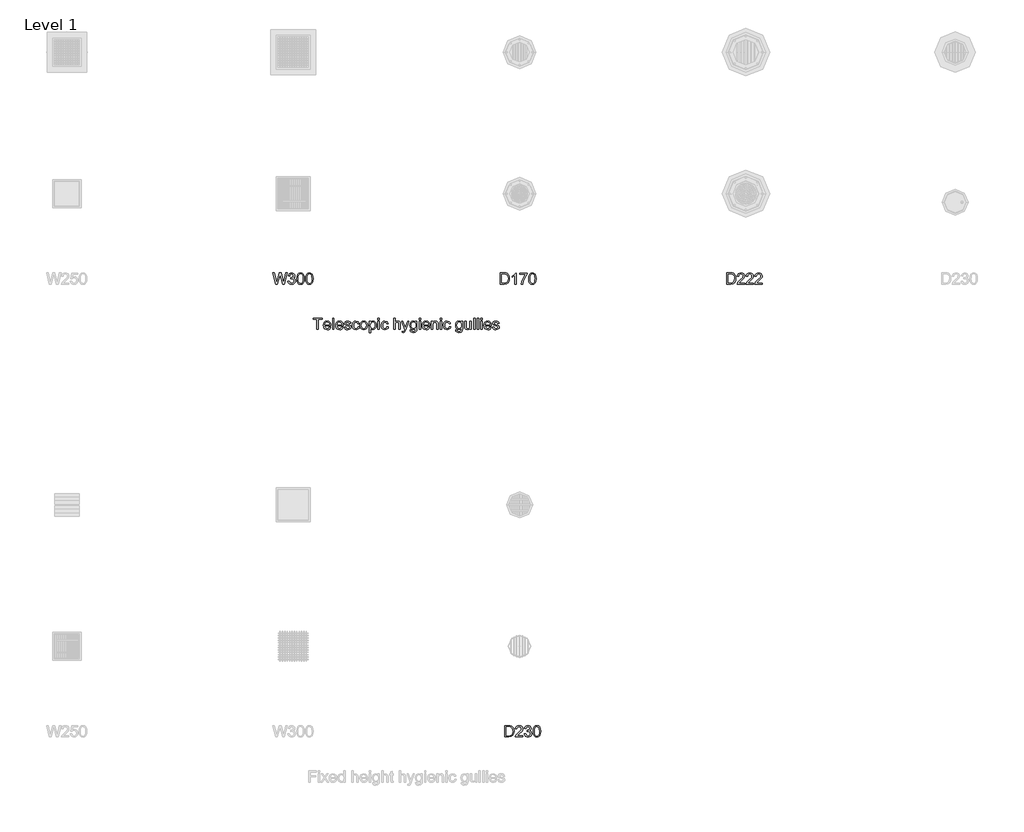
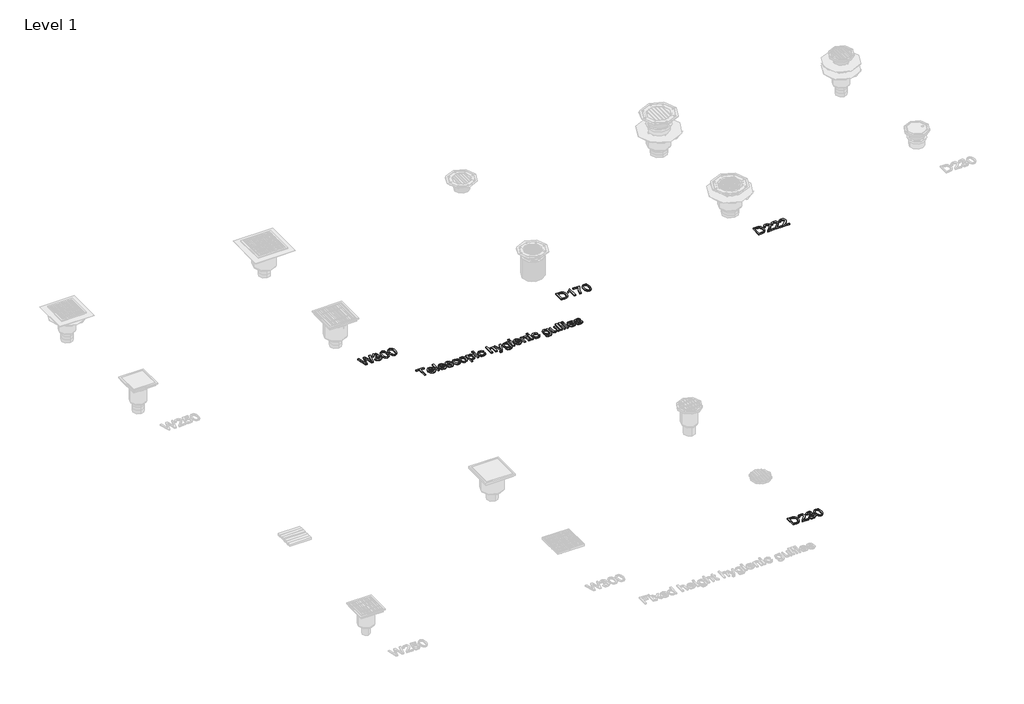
# One storey, part 3 of 4: 5 proxies.
"""IFC4 building model written with IfcOpenShell, lengths in millimetres."""

from ifc_helpers import new_model, si_unit, origin, origin_with_axes, place, context, project, spatial, polyline, outline, extrude, element, save

model = new_model("IFC4")

# Units and contexts
model_context = context("Model", 3, world=origin())
ifc_project = project(units=[si_unit("LENGTHUNIT", "METRE", prefix="MILLI")], contexts=[model_context])

# Site, building, storey
site = spatial("IfcSite", under=ifc_project)
building = spatial("IfcBuilding", under=site)
storey = spatial("IfcBuildingStorey", under=building, Name="Level 1", Elevation=0.0)

# Proxies
placement = place(None, origin())
element("IfcBuildingElementProxy", 1, Name="100mm ACO", ObjectType="100mm ACO", at=placement, inside=storey, context=model_context, shape_type="SweptSolid", body=[
    extrude(outline(polyline([(256.4814815, -2911.1111111), (223.1481481, -2911.1111111), (223.1481481, -3000.0), (210.1851852, -3000.0), (210.1851852, -2911.1111111), (176.8518519, -2911.1111111), (176.8518519, -2900.0), (256.4814815, -2900.0), (256.4814815, -2911.1111111)])), origin_with_axes(), (0.0, 0.0, 1.0), 10.0),
    extrude(outline(polyline([(332.4074074, -2966.6666667), (278.7037037, -2966.6666667), (280.7761863, -2977.7922454), (285.4890046, -2985.9375), (292.2706887, -2990.9288194), (300.5497685, -2992.5925926), (312.2251157, -2988.9033565), (319.4444444, -2977.7777778), (332.4074074, -2979.2824074), (328.0309606, -2988.9033565), (321.09375, -2996.0069444), (311.8489583, -3000.390625), (300.5497685, -3001.8518519), (285.9628183, -2999.3453414), (274.9565972, -2991.8258102), (268.0447049, -2979.9660012), (265.7407407, -2964.4386574), (267.9615162, -2948.900463), (274.6238426, -2936.6030093), (285.3226273, -2928.5951968), (299.6527778, -2925.9259259), (314.8726852, -2929.3836806), (327.3003472, -2941.1603009), (331.1306424, -2951.6963252), (332.4074074, -2966.6666667)]), holes=[polyline([(319.4444444, -2957.4074074), (317.3611111, -2947.2511574), (312.6157407, -2940.3935185), (299.3344907, -2935.1851852), (291.478588, -2936.7332176), (285.15625, -2941.3773148), (278.7037037, -2957.4074074), (319.4444444, -2957.4074074)])]), origin_with_axes(), (0.0, 0.0, 1.0), 10.0),
    extrude(outline(polyline([(360.1851852, -3000.0), (347.2222222, -3000.0), (347.2222222, -2900.0), (360.1851852, -2900.0), (360.1851852, -3000.0)])), origin_with_axes(), (0.0, 0.0, 1.0), 10.0),
    extrude(outline(polyline([(441.6666667, -2966.6666667), (387.962963, -2966.6666667), (390.0354456, -2977.7922454), (394.7482639, -2985.9375), (401.5299479, -2990.9288194), (409.8090278, -2992.5925926), (421.484375, -2988.9033565), (428.7037037, -2977.7777778), (441.6666667, -2979.2824074), (437.2902199, -2988.9033565), (430.3530093, -2996.0069444), (421.1082176, -3000.390625), (409.8090278, -3001.8518519), (395.2220775, -2999.3453414), (384.2158565, -2991.8258102), (377.3039641, -2979.9660012), (375.0, -2964.4386574), (377.2207755, -2948.900463), (383.8831019, -2936.6030093), (394.5818866, -2928.5951968), (408.912037, -2925.9259259), (424.1319444, -2929.3836806), (436.5596065, -2941.1603009), (440.3899016, -2951.6963252), (441.6666667, -2966.6666667)]), holes=[polyline([(428.7037037, -2957.4074074), (426.6203704, -2947.2511574), (421.875, -2940.3935185), (408.59375, -2935.1851852), (400.7378472, -2936.7332176), (394.4155093, -2941.3773148), (387.962963, -2957.4074074), (428.7037037, -2957.4074074)])]), origin_with_axes(), (0.0, 0.0, 1.0), 10.0),
    extrude(outline(polyline([(497.2222222, -2948.1481481), (492.4334491, -2938.4259259), (481.3657407, -2935.1851852), (470.0520833, -2937.962963), (465.7407407, -2946.0358796), (468.5908565, -2953.1828704), (482.03125, -2957.0601852), (499.7540509, -2961.2268519), (508.7962963, -2967.5491898), (512.037037, -2978.8773148), (510.0260417, -2987.8074363), (503.9930556, -2995.2112269), (494.5963542, -3000.1916956), (482.494213, -3001.8518519), (470.0195312, -3000.4557292), (460.6047454, -2996.2673611), (454.2426215, -2989.2939815), (450.9259259, -2979.5428241), (463.8888889, -2977.7777778), (469.4878472, -2988.9033565), (482.494213, -2992.5925926), (494.7916667, -2988.7586806), (499.0740741, -2979.4270833), (497.1498843, -2973.4519676), (492.3466435, -2970.0810185), (478.7615741, -2967.1875), (457.8269676, -2959.375), (452.7777778, -2946.7881944), (454.6477141, -2938.5018808), (460.2575231, -2931.8142361), (469.0285012, -2927.3980035), (480.3819444, -2925.9259259), (492.3140914, -2927.2135417), (501.2586806, -2931.0763889), (507.2157118, -2937.5072338), (510.1851852, -2946.4988426), (497.2222222, -2948.1481481)])), origin_with_axes(), (0.0, 0.0, 1.0), 10.0),
    extrude(outline(polyline([(586.1111111, -2975.5497685), (582.0818866, -2987.3553241), (574.9131944, -2995.5150463), (565.588831, -3000.2676505), (555.0925926, -3001.8518519), (540.7769097, -2999.2621528), (530.1215278, -2991.4930556), (523.5026042, -2979.4487847), (521.2962963, -2964.0335648), (526.3310185, -2941.3483796), (538.9322917, -2929.3836806), (554.8321759, -2925.9259259), (574.291088, -2931.5827546), (580.8268229, -2938.566985), (584.2592593, -2948.2060185), (571.2962963, -2950.0), (565.3935185, -2938.9033565), (554.9768519, -2935.1851852), (546.021412, -2937.0695891), (539.525463, -2942.7228009), (535.5758102, -2951.7541956), (534.2592593, -2963.7731481), (535.5794271, -2976.0018808), (539.5399306, -2985.083912), (545.98886, -2990.7154225), (554.7743056, -2992.5925926), (567.3755787, -2987.962963), (573.1481481, -2974.0740741), (586.1111111, -2975.5497685)])), origin_with_axes(), (0.0, 0.0, 1.0), 10.0),
    extrude(outline(polyline([(623.119213, -2925.9259259), (636.2955729, -2928.3203125), (647.0052083, -2935.5034722), (654.1124132, -2947.0992477), (656.4814815, -2962.7314815), (653.9171007, -2981.0040509), (646.2239583, -2992.9976852), (635.3190104, -2999.6383102), (623.119213, -3001.8518519), (610.5287905, -2999.5768229), (599.7251157, -2992.7517361), (592.29239, -2980.9859664), (589.8148148, -2963.8888889), (592.2092014, -2947.1715856), (599.3923611, -2935.3298611), (610.1128472, -2928.2769097), (623.119213, -2925.9259259)]), holes=[polyline([(623.119213, -2992.5925926), (631.92636, -2990.5852141), (638.3246528, -2984.5630787), (643.5185185, -2963.4259259), (642.0500579, -2951.1429398), (637.6446759, -2942.3032407), (631.0763889, -2936.9646991), (623.119213, -2935.1851852), (615.0065104, -2936.9900174), (608.4924769, -2942.4045139), (604.2064525, -2951.3925058), (602.7777778, -2963.9178241), (604.2317708, -2976.3997396), (608.59375, -2985.3732639), (615.1331019, -2990.7877604), (623.119213, -2992.5925926)])]), origin_with_axes(), (0.0, 0.0, 1.0), 10.0),
    extrude(outline(polyline([(684.3894676, -2936.4872685), (692.8457755, -2928.5662616), (704.5138889, -2925.9259259), (716.8402778, -2928.515625), (726.2731481, -2936.2847222), (732.2627315, -2948.2132523), (734.2592593, -2963.28125), (732.0023148, -2979.1702836), (725.2314815, -2991.4207176), (715.1765046, -2999.2440683), (703.0671296, -3001.8518519), (692.6938657, -2999.7251157), (684.6064815, -2993.3449074), (684.2592593, -3027.7777778), (671.2962963, -3027.7777778), (671.2962963, -2927.7777778), (684.2592593, -2927.7777778), (684.3894676, -2936.4872685)]), holes=[polyline([(701.6493056, -2992.5925926), (709.4220197, -2990.766059), (715.7262731, -2985.2864583), (719.9037905, -2976.1899595), (721.2962963, -2963.5127315), (719.9544271, -2951.4359086), (715.9288194, -2942.5202546), (709.8126447, -2937.0189525), (702.1990741, -2935.1851852), (694.317853, -2937.2287326), (687.9774306, -2943.359375), (683.7999132, -2952.7452257), (682.4074074, -2964.5543981), (683.7420428, -2976.66739), (687.7459491, -2985.4600694), (693.891059, -2990.8094618), (701.6493056, -2992.5925926)])]), origin_with_axes(), (0.0, 0.0, 1.0), 10.0),
    extrude(outline(polyline([(762.037037, -3000.0), (749.0740741, -3000.0), (749.0740741, -2927.7777778), (762.037037, -2927.7777778), (762.037037, -3000.0)])), origin_with_axes(), (0.0, 0.0, 1.0), 10.0),
    extrude(outline(polyline([(762.037037, -2912.962963), (749.0740741, -2912.962963), (749.0740741, -2900.0), (762.037037, -2900.0), (762.037037, -2912.962963)])), origin_with_axes(), (0.0, 0.0, 1.0), 10.0),
    extrude(outline(polyline([(841.6666667, -2975.5497685), (837.6374421, -2987.3553241), (830.46875, -2995.5150463), (821.1443866, -3000.2676505), (810.6481481, -3001.8518519), (796.3324653, -2999.2621528), (785.6770833, -2991.4930556), (779.0581597, -2979.4487847), (776.8518519, -2964.0335648), (781.8865741, -2941.3483796), (794.4878472, -2929.3836806), (810.3877315, -2925.9259259), (829.8466435, -2931.5827546), (836.3823785, -2938.566985), (839.8148148, -2948.2060185), (826.8518519, -2950.0), (820.9490741, -2938.9033565), (810.5324074, -2935.1851852), (801.5769676, -2937.0695891), (795.0810185, -2942.7228009), (791.1313657, -2951.7541956), (789.8148148, -2963.7731481), (791.1349826, -2976.0018808), (795.0954861, -2985.083912), (801.5444155, -2990.7154225), (810.3298611, -2992.5925926), (822.9311343, -2987.962963), (828.7037037, -2974.0740741), (841.6666667, -2975.5497685)])), origin_with_axes(), (0.0, 0.0, 1.0), 10.0),
    extrude(outline(polyline([(947.2222222, -3000.0), (934.2592593, -3000.0), (934.2592593, -2953.2986111), (930.5700231, -2939.7135417), (919.5601852, -2935.1851852), (906.6261574, -2940.5237269), (902.3509838, -2947.9564525), (900.9259259, -2959.5775463), (900.9259259, -3000.0), (887.962963, -3000.0), (887.962963, -2900.0), (900.9259259, -2900.0), (900.9259259, -2935.8217593), (910.6264468, -2928.3998843), (922.4826389, -2925.9259259), (935.7638889, -2928.7905093), (944.6614583, -2937.6012731), (947.2222222, -2954.1087963), (947.2222222, -3000.0)])), origin_with_axes(), (0.0, 0.0, 1.0), 10.0),
    extrude(outline(polyline([(1023.1481481, -2927.7777778), (995.9780093, -3001.9386574), (986.9357639, -3021.2818287), (980.8485243, -3026.1537905), (972.6273148, -3027.7777778), (965.0462963, -3026.6203704), (963.8888889, -3016.6666667), (970.4282407, -3018.5185185), (979.2824074, -3014.5543981), (985.15625, -3001.0706019), (958.3333333, -2927.7777778), (970.0520833, -2927.7777778), (987.6736111, -2973.8715278), (991.0011574, -2984.8090278), (995.9201389, -2971.1226852), (1011.4583333, -2927.7777778), (1023.1481481, -2927.7777778)])), origin_with_axes(), (0.0, 0.0, 1.0), 10.0),
    extrude(outline(polyline([(1093.5185185, -2989.3518519), (1090.4658565, -3011.9936343), (1079.6006944, -3023.6255787), (1060.9375, -3027.7777778), (1049.7214988, -3026.3708044), (1040.552662, -3022.1498843), (1034.4437211, -3014.7243924), (1032.4074074, -3003.7037037), (1045.3703704, -3005.7581019), (1049.9421296, -3015.3211806), (1061.1400463, -3018.5185185), (1074.4502315, -3014.8292824), (1079.615162, -3005.8449074), (1080.5555556, -2991.2326389), (1071.7809606, -2997.8081597), (1060.9664352, -3000.0), (1048.5749421, -2997.3885995), (1038.8888889, -2989.5543981), (1032.6388889, -2977.7416088), (1030.5555556, -2963.1944444), (1032.5376157, -2948.5532407), (1038.4837963, -2936.5740741), (1047.9311343, -2928.587963), (1060.4166667, -2925.9259259), (1071.4916088, -2928.3058449), (1080.2951389, -2935.4456019), (1080.5555556, -2927.7777778), (1093.5185185, -2927.7777778), (1093.5185185, -2989.3518519)]), holes=[polyline([(1062.9050926, -2990.7407407), (1070.1171875, -2989.134838), (1076.4756944, -2984.3171296), (1080.9244792, -2975.7233796), (1082.4074074, -2962.7893519), (1080.9932002, -2951.0018808), (1076.7505787, -2942.3177083), (1070.4246238, -2936.968316), (1062.7604167, -2935.1851852), (1055.0383391, -2937.0117187), (1048.8859954, -2942.4913194), (1044.8603877, -2951.1465567), (1043.5185185, -2962.5), (1044.9254919, -2975.2170139), (1049.146412, -2983.9699074), (1055.4000289, -2989.0480324), (1062.9050926, -2990.7407407)])]), origin_with_axes(), (0.0, 0.0, 1.0), 10.0),
    extrude(outline(polyline([(1125.0, -2912.962963), (1112.037037, -2912.962963), (1112.037037, -2900.0), (1125.0, -2900.0), (1125.0, -2912.962963)])), origin_with_axes(), (0.0, 0.0, 1.0), 10.0),
    extrude(outline(polyline([(1125.0, -3000.0), (1112.037037, -3000.0), (1112.037037, -2927.7777778), (1125.0, -2927.7777778), (1125.0, -3000.0)])), origin_with_axes(), (0.0, 0.0, 1.0), 10.0),
    extrude(outline(polyline([(1206.4814815, -2966.6666667), (1152.7777778, -2966.6666667), (1154.8502604, -2977.7922454), (1159.5630787, -2985.9375), (1166.3447627, -2990.9288194), (1174.6238426, -2992.5925926), (1186.2991898, -2988.9033565), (1193.5185185, -2977.7777778), (1206.4814815, -2979.2824074), (1202.1050347, -2988.9033565), (1195.1678241, -2996.0069444), (1185.9230324, -3000.390625), (1174.6238426, -3001.8518519), (1160.0368924, -2999.3453414), (1149.0306713, -2991.8258102), (1142.1187789, -2979.9660012), (1139.8148148, -2964.4386574), (1142.0355903, -2948.900463), (1148.6979167, -2936.6030093), (1159.3967014, -2928.5951968), (1173.7268519, -2925.9259259), (1188.9467593, -2929.3836806), (1201.3744213, -2941.1603009), (1205.2047164, -2951.6963252), (1206.4814815, -2966.6666667)]), holes=[polyline([(1193.5185185, -2957.4074074), (1191.4351852, -2947.2511574), (1186.6898148, -2940.3935185), (1173.4085648, -2935.1851852), (1165.552662, -2936.7332176), (1159.2303241, -2941.3773148), (1152.7777778, -2957.4074074), (1193.5185185, -2957.4074074)])]), origin_with_axes(), (0.0, 0.0, 1.0), 10.0),
    extrude(outline(polyline([(1280.5555556, -3000.0), (1267.5925926, -3000.0), (1267.5925926, -2955.0347222), (1263.7297454, -2939.4386574), (1252.9803241, -2935.1851852), (1242.9542824, -2937.9050926), (1236.2413194, -2945.5729167), (1234.2592593, -2959.5775463), (1234.2592593, -3000.0), (1221.2962963, -3000.0), (1221.2962963, -2927.7777778), (1232.4074074, -2927.7777778), (1232.4074074, -2937.818287), (1242.3032407, -2928.8917824), (1255.5555556, -2925.9259259), (1266.9270833, -2927.9803241), (1275.7233796, -2934.1290509), (1279.7309028, -2942.8674769), (1280.5555556, -2955.4108796), (1280.5555556, -3000.0)])), origin_with_axes(), (0.0, 0.0, 1.0), 10.0),
    extrude(outline(polyline([(1312.037037, -2912.962963), (1299.0740741, -2912.962963), (1299.0740741, -2900.0), (1312.037037, -2900.0), (1312.037037, -2912.962963)])), origin_with_axes(), (0.0, 0.0, 1.0), 10.0),
    extrude(outline(polyline([(1312.037037, -3000.0), (1299.0740741, -3000.0), (1299.0740741, -2927.7777778), (1312.037037, -2927.7777778), (1312.037037, -3000.0)])), origin_with_axes(), (0.0, 0.0, 1.0), 10.0),
    extrude(outline(polyline([(1391.6666667, -2975.5497685), (1387.6374421, -2987.3553241), (1380.46875, -2995.5150463), (1371.1443866, -3000.2676505), (1360.6481481, -3001.8518519), (1346.3324653, -2999.2621528), (1335.6770833, -2991.4930556), (1329.0581597, -2979.4487847), (1326.8518519, -2964.0335648), (1331.8865741, -2941.3483796), (1344.4878472, -2929.3836806), (1360.3877315, -2925.9259259), (1379.8466435, -2931.5827546), (1386.3823785, -2938.566985), (1389.8148148, -2948.2060185), (1376.8518519, -2950.0), (1370.9490741, -2938.9033565), (1360.5324074, -2935.1851852), (1351.5769676, -2937.0695891), (1345.0810185, -2942.7228009), (1341.1313657, -2951.7541956), (1339.8148148, -2963.7731481), (1341.1349826, -2976.0018808), (1345.0954861, -2985.083912), (1351.5444155, -2990.7154225), (1360.3298611, -2992.5925926), (1372.9311343, -2987.962963), (1378.7037037, -2974.0740741), (1391.6666667, -2975.5497685)])), origin_with_axes(), (0.0, 0.0, 1.0), 10.0),
    extrude(outline(polyline([(1497.2222222, -2989.3518519), (1494.1695602, -3011.9936343), (1483.3043981, -3023.6255787), (1464.6412037, -3027.7777778), (1453.4252025, -3026.3708044), (1444.2563657, -3022.1498843), (1438.1474248, -3014.7243924), (1436.1111111, -3003.7037037), (1449.0740741, -3005.7581019), (1453.6458333, -3015.3211806), (1464.84375, -3018.5185185), (1478.1539352, -3014.8292824), (1483.3188657, -3005.8449074), (1484.2592593, -2991.2326389), (1475.4846644, -2997.8081597), (1464.6701389, -3000.0), (1452.2786458, -2997.3885995), (1442.5925926, -2989.5543981), (1436.3425926, -2977.7416088), (1434.2592593, -2963.1944444), (1436.2413194, -2948.5532407), (1442.1875, -2936.5740741), (1451.634838, -2928.587963), (1464.1203704, -2925.9259259), (1475.1953125, -2928.3058449), (1483.9988426, -2935.4456019), (1484.2592593, -2927.7777778), (1497.2222222, -2927.7777778), (1497.2222222, -2989.3518519)]), holes=[polyline([(1466.6087963, -2990.7407407), (1473.8208912, -2989.134838), (1480.1793981, -2984.3171296), (1484.6281829, -2975.7233796), (1486.1111111, -2962.7893519), (1484.6969039, -2951.0018808), (1480.4542824, -2942.3177083), (1474.1283275, -2936.968316), (1466.4641204, -2935.1851852), (1458.7420428, -2937.0117187), (1452.5896991, -2942.4913194), (1448.5640914, -2951.1465567), (1447.2222222, -2962.5), (1448.6291956, -2975.2170139), (1452.8501157, -2983.9699074), (1459.1037326, -2989.0480324), (1466.6087963, -2990.7407407)])]), origin_with_axes(), (0.0, 0.0, 1.0), 10.0),
    extrude(outline(polyline([(1575.0, -3000.0), (1563.8888889, -3000.0), (1563.8888889, -2989.4965278), (1553.6458333, -2998.7630208), (1540.6828704, -3001.8518519), (1526.5625, -2998.3362269), (1517.9108796, -2988.6574074), (1515.7407407, -2972.65625), (1515.7407407, -2927.7777778), (1528.7037037, -2927.7777778), (1528.7037037, -2968.75), (1529.6006944, -2982.8414352), (1534.2881944, -2989.84375), (1543.3159722, -2992.5925926), (1556.0619213, -2987.6736111), (1560.5432581, -2980.1215278), (1562.037037, -2967.3032407), (1562.037037, -2927.7777778), (1575.0, -2927.7777778), (1575.0, -3000.0)])), origin_with_axes(), (0.0, 0.0, 1.0), 10.0),
    extrude(outline(polyline([(1606.4814815, -3000.0), (1593.5185185, -3000.0), (1593.5185185, -2900.0), (1606.4814815, -2900.0), (1606.4814815, -3000.0)])), origin_with_axes(), (0.0, 0.0, 1.0), 10.0),
    extrude(outline(polyline([(1637.962963, -3000.0), (1625.0, -3000.0), (1625.0, -2900.0), (1637.962963, -2900.0), (1637.962963, -3000.0)])), origin_with_axes(), (0.0, 0.0, 1.0), 10.0),
    extrude(outline(polyline([(1669.4444444, -2912.962963), (1656.4814815, -2912.962963), (1656.4814815, -2900.0), (1669.4444444, -2900.0), (1669.4444444, -2912.962963)])), origin_with_axes(), (0.0, 0.0, 1.0), 10.0),
    extrude(outline(polyline([(1669.4444444, -3000.0), (1656.4814815, -3000.0), (1656.4814815, -2927.7777778), (1669.4444444, -2927.7777778), (1669.4444444, -3000.0)])), origin_with_axes(), (0.0, 0.0, 1.0), 10.0),
    extrude(outline(polyline([(1750.9259259, -2966.6666667), (1697.2222222, -2966.6666667), (1699.2947049, -2977.7922454), (1704.0075231, -2985.9375), (1710.7892072, -2990.9288194), (1719.068287, -2992.5925926), (1730.7436343, -2988.9033565), (1737.962963, -2977.7777778), (1750.9259259, -2979.2824074), (1746.5494792, -2988.9033565), (1739.6122685, -2996.0069444), (1730.3674769, -3000.390625), (1719.068287, -3001.8518519), (1704.4813368, -2999.3453414), (1693.4751157, -2991.8258102), (1686.5632234, -2979.9660012), (1684.2592593, -2964.4386574), (1686.4800347, -2948.900463), (1693.1423611, -2936.6030093), (1703.8411458, -2928.5951968), (1718.1712963, -2925.9259259), (1733.3912037, -2929.3836806), (1745.8188657, -2941.1603009), (1749.6491609, -2951.6963252), (1750.9259259, -2966.6666667)]), holes=[polyline([(1737.962963, -2957.4074074), (1735.8796296, -2947.2511574), (1731.1342593, -2940.3935185), (1717.8530093, -2935.1851852), (1709.9971065, -2936.7332176), (1703.6747685, -2941.3773148), (1697.2222222, -2957.4074074), (1737.962963, -2957.4074074)])]), origin_with_axes(), (0.0, 0.0, 1.0), 10.0),
    extrude(outline(polyline([(1806.4814815, -2948.1481481), (1801.6927083, -2938.4259259), (1790.625, -2935.1851852), (1779.3113426, -2937.962963), (1775.0, -2946.0358796), (1777.8501157, -2953.1828704), (1791.2905093, -2957.0601852), (1809.0133102, -2961.2268519), (1818.0555556, -2967.5491898), (1821.2962963, -2978.8773148), (1819.2853009, -2987.8074363), (1813.2523148, -2995.2112269), (1803.8556134, -3000.1916956), (1791.7534722, -3001.8518519), (1779.2787905, -3000.4557292), (1769.8640046, -2996.2673611), (1763.5018808, -2989.2939815), (1760.1851852, -2979.5428241), (1773.1481481, -2977.7777778), (1778.7471065, -2988.9033565), (1791.7534722, -2992.5925926), (1804.0509259, -2988.7586806), (1808.3333333, -2979.4270833), (1806.4091435, -2973.4519676), (1801.6059028, -2970.0810185), (1788.0208333, -2967.1875), (1767.0862269, -2959.375), (1762.037037, -2946.7881944), (1763.9069734, -2938.5018808), (1769.5167824, -2931.8142361), (1778.2877604, -2927.3980035), (1789.6412037, -2925.9259259), (1801.5733507, -2927.2135417), (1810.5179398, -2931.0763889), (1816.4749711, -2937.5072338), (1819.4444444, -2946.4988426), (1806.4814815, -2948.1481481)])), origin_with_axes(), (0.0, 0.0, 1.0), 10.0),
])
element("IfcBuildingElementProxy", 2, Name="100mm ACO", ObjectType="100mm ACO", at=placement, inside=storey, context=model_context, shape_type="SweptSolid", body=[
    extrude(outline(polyline([(-51.8518519, -2500.0), (-78.0092593, -2600.0), (-93.8657407, -2600.0), (-113.744213, -2521.1516204), (-115.7407407, -2511.9502315), (-118.75, -2523.8136574), (-139.6990741, -2600.0), (-153.587963, -2600.0), (-179.6296296, -2500.0), (-166.3194444, -2500.0), (-151.1863426, -2565.6828704), (-147.3668981, -2584.6643519), (-142.7083333, -2567.505787), (-123.8425926, -2500.0), (-107.494213, -2500.0), (-93.8078704, -2550.6076389), (-86.3715278, -2586.1111111), (-81.25, -2564.3229167), (-65.2199074, -2500.0), (-51.8518519, -2500.0)])), origin_with_axes(), (0.0, 0.0, 1.0), 10.0),
    extrude(outline(polyline([(1.1863426, -2546.3975694), (9.516059, -2549.6346933), (15.5237269, -2555.4253472), (20.3703704, -2570.9490741), (17.8457755, -2583.2573785), (10.2719907, -2593.1568287), (-0.817419, -2599.6780961), (-13.8888889, -2601.8518519), (-26.1682581, -2599.9348958), (-36.0966435, -2594.1840278), (-43.0230035, -2585.2864583), (-46.2962963, -2573.9293981), (-33.3333333, -2572.2222222), (-26.5046296, -2587.5144676), (-13.4548611, -2592.5925926), (-5.3855613, -2591.0662616), (1.3454861, -2586.4872685), (5.8919271, -2579.6947338), (7.4074074, -2571.5277778), (5.9859664, -2563.7695312), (1.7216435, -2557.4508102), (-4.8357928, -2553.2515914), (-13.1365741, -2551.8518519), (-22.2222222, -2553.7037037), (-20.775463, -2542.5925926), (-12.9050926, -2542.1006944), (-6.4236111, -2539.6990741), (-0.4918981, -2534.2303241), (1.8518519, -2525.4050926), (-2.9369213, -2513.4837963), (-14.0335648, -2509.2592593), (-25.7667824, -2514.0625), (-31.4814815, -2527.7777778), (-44.4444444, -2525.5497685), (-40.6069155, -2514.3627025), (-33.8975694, -2506.3802083), (-24.9529803, -2501.5950521), (-14.4097222, -2500.0), (-2.9441551, -2501.8916377), (6.4525463, -2507.5665509), (12.7242477, -2515.9758391), (14.8148148, -2526.0706019), (11.4076968, -2538.1365741), (1.1863426, -2546.3975694)])), origin_with_axes(), (0.0, 0.0, 1.0), 10.0),
    extrude(outline(polyline([(64.7858796, -2500.0), (79.3818721, -2503.1864873), (89.807581, -2512.7459491), (96.0630064, -2528.6783854), (98.1481481, -2550.9837963), (95.9924769, -2573.4555845), (89.525463, -2589.3084491), (79.0292245, -2598.7160012), (64.7858796, -2601.8518519), (50.2152054, -2598.6725984), (39.807581, -2589.134838), (33.5630064, -2573.2385706), (31.4814815, -2550.9837963), (33.6371528, -2528.515625), (40.1041667, -2512.6157407), (50.5859375, -2503.1539352), (64.7858796, -2500.0)]), holes=[polyline([(64.8148148, -2592.5925926), (73.6545139, -2590.1584201), (80.0347222, -2582.8559028), (83.8975694, -2570.0195312), (85.1851852, -2550.9837963), (82.9282407, -2526.7650463), (76.1140046, -2513.599537), (64.6701389, -2509.2592593), (55.8485243, -2511.7368345), (49.5225694, -2519.1695602), (45.7139757, -2532.0782697), (44.4444444, -2550.9837963), (46.7447917, -2575.0434028), (53.5590278, -2588.2523148), (64.8148148, -2592.5925926)])]), origin_with_axes(), (0.0, 0.0, 1.0), 10.0),
    extrude(outline(polyline([(142.5636574, -2500.0), (157.1596499, -2503.1864873), (167.5853588, -2512.7459491), (173.8407841, -2528.6783854), (175.9259259, -2550.9837963), (173.7702546, -2573.4555845), (167.3032407, -2589.3084491), (156.8070023, -2598.7160012), (142.5636574, -2601.8518519), (127.9929832, -2598.6725984), (117.5853588, -2589.134838), (111.3407841, -2573.2385706), (109.2592593, -2550.9837963), (111.4149306, -2528.515625), (117.8819444, -2512.6157407), (128.3637153, -2503.1539352), (142.5636574, -2500.0)]), holes=[polyline([(142.5925926, -2592.5925926), (151.4322917, -2590.1584201), (157.8125, -2582.8559028), (161.6753472, -2570.0195312), (162.962963, -2550.9837963), (160.7060185, -2526.7650463), (153.8917824, -2513.599537), (142.4479167, -2509.2592593), (133.6263021, -2511.7368345), (127.3003472, -2519.1695602), (123.4917535, -2532.0782697), (122.2222222, -2550.9837963), (124.5225694, -2575.0434028), (131.3368056, -2588.2523148), (142.5925926, -2592.5925926)])]), origin_with_axes(), (0.0, 0.0, 1.0), 10.0),
])
element("IfcBuildingElementProxy", 3, Name="100mm ACO", ObjectType="100mm ACO", at=placement, inside=storey, context=model_context, shape_type="SweptSolid", body=[
    extrude(outline(polyline([(1829.6296296, -2500.0), (1863.6574074, -2500.0), (1879.0509259, -2500.9259259), (1891.3773148, -2505.4253472), (1901.6637731, -2515.2777778), (1908.59375, -2529.7019676), (1911.1111111, -2549.4502315), (1908.521412, -2569.5855035), (1900.7523148, -2585.7783565), (1886.6681134, -2596.4445891), (1865.1331019, -2600.0), (1829.6296296, -2600.0), (1829.6296296, -2500.0)]), holes=[polyline([(1842.5925926, -2588.8888889), (1863.9178241, -2588.8888889), (1875.5642361, -2588.0497685), (1885.9664352, -2583.521412), (1894.6903935, -2571.4265046), (1898.1481481, -2549.1608796), (1896.8171296, -2534.8668981), (1891.9270833, -2522.7575231), (1883.7528935, -2514.7569444), (1874.7540509, -2511.6608796), (1863.5127315, -2511.1111111), (1842.5925926, -2511.1111111), (1842.5925926, -2588.8888889)])]), origin_with_axes(), (0.0, 0.0, 1.0), 10.0),
    extrude(outline(polyline([(1972.2222222, -2600.0), (1959.2592593, -2600.0), (1959.2592593, -2522.2222222), (1935.1851852, -2537.037037), (1935.1851852, -2527.7777778), (1953.4577546, -2516.0590278), (1964.8148148, -2501.8518519), (1972.2222222, -2501.8518519), (1972.2222222, -2600.0)])), origin_with_axes(), (0.0, 0.0, 1.0), 10.0),
    extrude(outline(polyline([(2068.5185185, -2509.2592593), (2054.4885706, -2528.8085937), (2042.4913194, -2551.1140046), (2033.7854456, -2575.177228), (2029.6296296, -2600.0), (2016.6666667, -2600.0), (2019.5710359, -2578.7688079), (2027.3003472, -2555.6423611), (2052.34375, -2511.1111111), (2001.8518519, -2511.1111111), (2001.8518519, -2501.8518519), (2068.5185185, -2501.8518519), (2068.5185185, -2509.2592593)])), origin_with_axes(), (0.0, 0.0, 1.0), 10.0),
    extrude(outline(polyline([(2112.9340278, -2500.0), (2127.5300203, -2503.1864873), (2137.9557292, -2512.7459491), (2144.2111545, -2528.6783854), (2146.2962963, -2550.9837963), (2144.140625, -2573.4555845), (2137.6736111, -2589.3084491), (2127.1773727, -2598.7160012), (2112.9340278, -2601.8518519), (2098.3633536, -2598.6725984), (2087.9557292, -2589.134838), (2081.7111545, -2573.2385706), (2079.6296296, -2550.9837963), (2081.7853009, -2528.515625), (2088.2523148, -2512.6157407), (2098.7340856, -2503.1539352), (2112.9340278, -2500.0)]), holes=[polyline([(2112.962963, -2592.5925926), (2121.802662, -2590.1584201), (2128.1828704, -2582.8559028), (2132.0457176, -2570.0195312), (2133.3333333, -2550.9837963), (2131.0763889, -2526.7650463), (2124.2621528, -2513.599537), (2112.818287, -2509.2592593), (2103.9966725, -2511.7368345), (2097.6707176, -2519.1695602), (2093.8621238, -2532.0782697), (2092.5925926, -2550.9837963), (2094.8929398, -2575.0434028), (2101.7071759, -2588.2523148), (2112.962963, -2592.5925926)])]), origin_with_axes(), (0.0, 0.0, 1.0), 10.0),
])
element("IfcBuildingElementProxy", 4, Name="100mm ACO", ObjectType="100mm ACO", at=placement, inside=storey, context=model_context, shape_type="SweptSolid", body=[
    extrude(outline(polyline([(3829.6296296, -2500.0), (3863.6574074, -2500.0), (3879.0509259, -2500.9259259), (3891.3773148, -2505.4253472), (3901.6637731, -2515.2777778), (3908.59375, -2529.7019676), (3911.1111111, -2549.4502315), (3908.521412, -2569.5855035), (3900.7523148, -2585.7783565), (3886.6681134, -2596.4445891), (3865.1331019, -2600.0), (3829.6296296, -2600.0), (3829.6296296, -2500.0)]), holes=[polyline([(3842.5925926, -2588.8888889), (3863.9178241, -2588.8888889), (3875.5642361, -2588.0497685), (3885.9664352, -2583.521412), (3894.6903935, -2571.4265046), (3898.1481481, -2549.1608796), (3896.8171296, -2534.8668981), (3891.9270833, -2522.7575231), (3883.7528935, -2514.7569444), (3874.7540509, -2511.6608796), (3863.5127315, -2511.1111111), (3842.5925926, -2511.1111111), (3842.5925926, -2588.8888889)])]), origin_with_axes(), (0.0, 0.0, 1.0), 10.0),
    extrude(outline(polyline([(3988.8888889, -2600.0), (3922.2222222, -2600.0), (3928.1828704, -2584.4039352), (3950.2025463, -2562.7893519), (3967.96875, -2545.4571759), (3973.9366319, -2536.4293981), (3975.9259259, -2527.34375), (3970.5005787, -2514.380787), (3956.7997685, -2509.2592593), (3942.7662037, -2514.3663194), (3938.4982639, -2520.7356771), (3937.037037, -2529.6296296), (3924.0740741, -2528.2407407), (3927.2135417, -2516.1385995), (3934.2592593, -2507.2627315), (3944.4733796, -2501.8156829), (3957.1180556, -2500.0), (3970.4752604, -2502.0869502), (3980.5121528, -2508.3478009), (3986.7947049, -2517.5600405), (3988.8888889, -2528.5011574), (3987.1383102, -2538.4042245), (3981.8865741, -2548.4375), (3954.4560185, -2575.9548611), (3938.8888889, -2590.7407407), (3988.8888889, -2590.7407407), (3988.8888889, -2600.0)])), origin_with_axes(), (0.0, 0.0, 1.0), 10.0),
    extrude(outline(polyline([(4066.6666667, -2600.0), (4000.0, -2600.0), (4005.9606481, -2584.4039352), (4027.9803241, -2562.7893519), (4045.7465278, -2545.4571759), (4051.7144097, -2536.4293981), (4053.7037037, -2527.34375), (4048.2783565, -2514.380787), (4034.5775463, -2509.2592593), (4020.5439815, -2514.3663194), (4016.2760417, -2520.7356771), (4014.8148148, -2529.6296296), (4001.8518519, -2528.2407407), (4004.9913194, -2516.1385995), (4012.037037, -2507.2627315), (4022.2511574, -2501.8156829), (4034.8958333, -2500.0), (4048.2530382, -2502.0869502), (4058.2899306, -2508.3478009), (4064.5724826, -2517.5600405), (4066.6666667, -2528.5011574), (4064.916088, -2538.4042245), (4059.6643519, -2548.4375), (4032.2337963, -2575.9548611), (4016.6666667, -2590.7407407), (4066.6666667, -2590.7407407), (4066.6666667, -2600.0)])), origin_with_axes(), (0.0, 0.0, 1.0), 10.0),
    extrude(outline(polyline([(4144.4444444, -2600.0), (4077.7777778, -2600.0), (4083.7384259, -2584.4039352), (4105.7581019, -2562.7893519), (4123.5243056, -2545.4571759), (4129.4921875, -2536.4293981), (4131.4814815, -2527.34375), (4126.0561343, -2514.380787), (4112.3553241, -2509.2592593), (4098.3217593, -2514.3663194), (4094.0538194, -2520.7356771), (4092.5925926, -2529.6296296), (4079.6296296, -2528.2407407), (4082.7690972, -2516.1385995), (4089.8148148, -2507.2627315), (4100.0289352, -2501.8156829), (4112.6736111, -2500.0), (4126.030816, -2502.0869502), (4136.0677083, -2508.3478009), (4142.3502604, -2517.5600405), (4144.4444444, -2528.5011574), (4142.6938657, -2538.4042245), (4137.4421296, -2548.4375), (4110.0115741, -2575.9548611), (4094.4444444, -2590.7407407), (4144.4444444, -2590.7407407), (4144.4444444, -2600.0)])), origin_with_axes(), (0.0, 0.0, 1.0), 10.0),
])
element("IfcBuildingElementProxy", 5, Name="100mm ACO", ObjectType="100mm ACO", at=placement, inside=storey, context=model_context, shape_type="SweptSolid", body=[
    extrude(outline(polyline([(1869.6296296, -6500.0), (1903.6574074, -6500.0), (1919.0509259, -6500.9259259), (1931.3773148, -6505.4253472), (1941.6637731, -6515.2777778), (1948.59375, -6529.7019676), (1951.1111111, -6549.4502315), (1948.521412, -6569.5855035), (1940.7523148, -6585.7783565), (1926.6681134, -6596.4445891), (1905.1331019, -6600.0), (1869.6296296, -6600.0), (1869.6296296, -6500.0)]), holes=[polyline([(1882.5925926, -6588.8888889), (1903.9178241, -6588.8888889), (1915.5642361, -6588.0497685), (1925.9664352, -6583.521412), (1934.6903935, -6571.4265046), (1938.1481481, -6549.1608796), (1936.8171296, -6534.8668981), (1931.9270833, -6522.7575231), (1923.7528935, -6514.7569444), (1914.7540509, -6511.6608796), (1903.5127315, -6511.1111111), (1882.5925926, -6511.1111111), (1882.5925926, -6588.8888889)])]), origin_with_axes(), (0.0, 0.0, 1.0), 10.0),
    extrude(outline(polyline([(2028.8888889, -6600.0), (1962.2222222, -6600.0), (1968.1828704, -6584.4039352), (1990.2025463, -6562.7893519), (2007.96875, -6545.4571759), (2013.9366319, -6536.4293981), (2015.9259259, -6527.34375), (2010.5005787, -6514.380787), (1996.7997685, -6509.2592593), (1982.7662037, -6514.3663194), (1978.4982639, -6520.7356771), (1977.037037, -6529.6296296), (1964.0740741, -6528.2407407), (1967.2135417, -6516.1385995), (1974.2592593, -6507.2627315), (1984.4733796, -6501.8156829), (1997.1180556, -6500.0), (2010.4752604, -6502.0869502), (2020.5121528, -6508.3478009), (2026.7947049, -6517.5600405), (2028.8888889, -6528.5011574), (2027.1383102, -6538.4042245), (2021.8865741, -6548.4375), (1994.4560185, -6575.9548611), (1978.8888889, -6590.7407407), (2028.8888889, -6590.7407407), (2028.8888889, -6600.0)])), origin_with_axes(), (0.0, 0.0, 1.0), 10.0),
    extrude(outline(polyline([(2089.3344907, -6546.3975694), (2097.6642072, -6549.6346933), (2103.671875, -6555.4253472), (2108.5185185, -6570.9490741), (2105.9939236, -6583.2573785), (2098.4201389, -6593.1568287), (2087.3307292, -6599.6780961), (2074.2592593, -6601.8518519), (2061.97989, -6599.9348958), (2052.0515046, -6594.1840278), (2045.1251447, -6585.2864583), (2041.8518519, -6573.9293981), (2054.8148148, -6572.2222222), (2061.6435185, -6587.5144676), (2074.693287, -6592.5925926), (2082.7625868, -6591.0662616), (2089.4936343, -6586.4872685), (2094.0400752, -6579.6947338), (2095.5555556, -6571.5277778), (2094.1341146, -6563.7695312), (2089.8697917, -6557.4508102), (2083.3123553, -6553.2515914), (2075.0115741, -6551.8518519), (2065.9259259, -6553.7037037), (2067.3726852, -6542.5925926), (2075.2430556, -6542.1006944), (2081.724537, -6539.6990741), (2087.65625, -6534.2303241), (2090.0, -6525.4050926), (2085.2112269, -6513.4837963), (2074.1145833, -6509.2592593), (2062.3813657, -6514.0625), (2056.6666667, -6527.7777778), (2043.7037037, -6525.5497685), (2047.5412326, -6514.3627025), (2054.2505787, -6506.3802083), (2063.1951678, -6501.5950521), (2073.7384259, -6500.0), (2085.2039931, -6501.8916377), (2094.6006944, -6507.5665509), (2100.8723958, -6515.9758391), (2102.962963, -6526.0706019), (2099.5558449, -6538.1365741), (2089.3344907, -6546.3975694)])), origin_with_axes(), (0.0, 0.0, 1.0), 10.0),
    extrude(outline(polyline([(2152.9340278, -6500.0), (2167.5300203, -6503.1864873), (2177.9557292, -6512.7459491), (2184.2111545, -6528.6783854), (2186.2962963, -6550.9837963), (2184.140625, -6573.4555845), (2177.6736111, -6589.3084491), (2167.1773727, -6598.7160012), (2152.9340278, -6601.8518519), (2138.3633536, -6598.6725984), (2127.9557292, -6589.134838), (2121.7111545, -6573.2385706), (2119.6296296, -6550.9837963), (2121.7853009, -6528.515625), (2128.2523148, -6512.6157407), (2138.7340856, -6503.1539352), (2152.9340278, -6500.0)]), holes=[polyline([(2152.962963, -6592.5925926), (2161.802662, -6590.1584201), (2168.1828704, -6582.8559028), (2172.0457176, -6570.0195312), (2173.3333333, -6550.9837963), (2171.0763889, -6526.7650463), (2164.2621528, -6513.599537), (2152.818287, -6509.2592593), (2143.9966725, -6511.7368345), (2137.6707176, -6519.1695602), (2133.8621238, -6532.0782697), (2132.5925926, -6550.9837963), (2134.8929398, -6575.0434028), (2141.7071759, -6588.2523148), (2152.962963, -6592.5925926)])]), origin_with_axes(), (0.0, 0.0, 1.0), 10.0),
])

save(model, "model.ifc")
